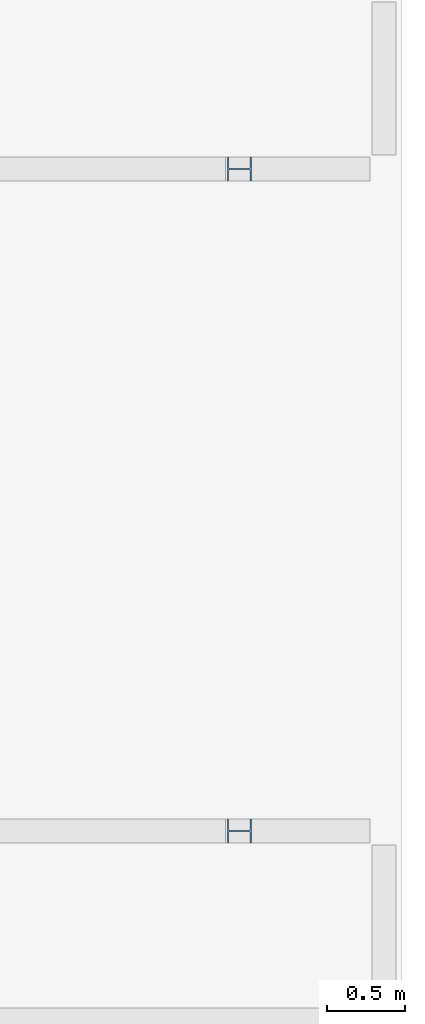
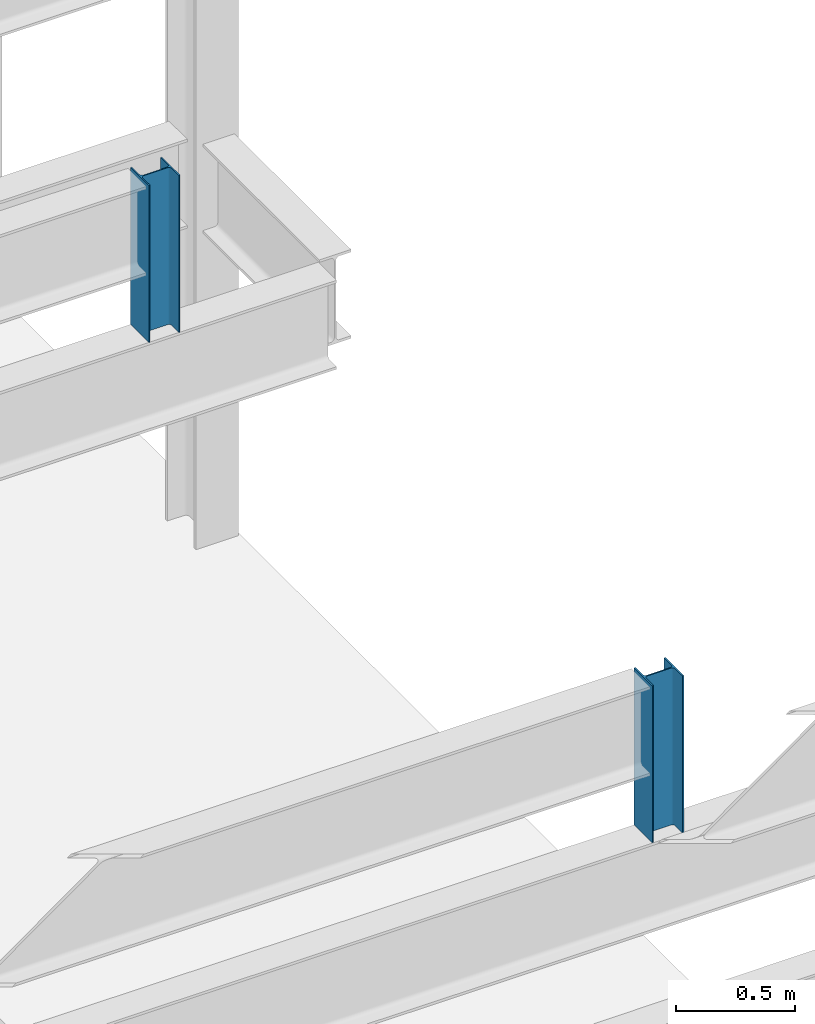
# One storey, part 7 of 119: 2 columns.
"""IFC2X3 building model written with IfcOpenShell, lengths in metres."""

from ifc_helpers import new_model, entity, si_unit, converted_unit, frame, frame_2d, origin, place, context, project, spatial, polyline, circle_curve, parameter, trimmed, segment, composite_curve, outline, extrude, source, transform, mapped, material, type_object, type_shapes, element, save


model = new_model("IFC2X3")

# Units and contexts
model_context = context("Model", 3, precision=1e-09, world=origin())
plan_context = context("Plan", 3, precision=1e-09, world=origin())
ifc_project = project(units=[si_unit("LENGTHUNIT", "METRE"), si_unit("AREAUNIT", "SQUARE_METRE"), si_unit("VOLUMEUNIT", "CUBIC_METRE"), converted_unit("PLANEANGLEUNIT", "DEGREE", entity("IfcRatioMeasure", 0.01745329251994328), si_unit("PLANEANGLEUNIT", "RADIAN"), dimensions=[0, 0, 0, 0, 0, 0, 0]), si_unit("TIMEUNIT", "SECOND")], contexts=[model_context, plan_context])

# Site, building, storey
site_placement = place(None, origin())
site = spatial("IfcSite", under=ifc_project, at=site_placement, Name="Default", CompositionType="ELEMENT")
building_placement = place(site_placement, origin())
building = spatial("IfcBuilding", under=site, at=building_placement, CompositionType="ELEMENT")
storey_placement = place(building_placement, frame((0.0, 0.0, 4.570000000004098)))
storey = spatial("IfcBuildingStorey", under=building, at=storey_placement, Name="Second Floor", CompositionType="ELEMENT", Elevation=4.570000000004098)

# Columns
ifc_material = material(Name="Metal - Steel - 345 MPa")
column_type_1 = type_object("IfcColumnType", Name="W150X22.5", PredefinedType="COLUMN")
shared_shape_1 = source(origin(), model_context, "Body", "SweptSolid", [
    extrude(outline(composite_curve([segment(polyline([(-0.07599999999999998, -0.07599999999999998), (0.07599999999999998, -0.07599999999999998)]), True, "CONTINUOUS"), segment(polyline([(0.07599999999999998, -0.07599999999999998), (0.07599999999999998, -0.06939999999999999)]), True, "CONTINUOUS"), segment(polyline([(0.07599999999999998, -0.06939999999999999), (0.0143, -0.0694)]), True, "CONTINUOUS"), segment(trimmed(circle_curve(frame_2d((0.0143, -0.05799999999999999), x_axis=(-1.0, 0.0)), 0.0114), [parameter(4.071109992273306e-13)], [parameter(90.00000000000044)], True, "PARAMETER"), False, "CONTINUOUS"), segment(polyline([(0.002899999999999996, -0.05799999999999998), (0.002899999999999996, 0.05800000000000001)]), True, "CONTINUOUS"), segment(trimmed(circle_curve(frame_2d((0.0143, 0.058), x_axis=(-1.0, 0.0)), 0.0114), [parameter(270.0000000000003)], [parameter(4.071109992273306e-13)], True, "PARAMETER"), False, "CONTINUOUS"), segment(polyline([(0.01429999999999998, 0.06939999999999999), (0.07599999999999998, 0.06939999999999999)]), True, "CONTINUOUS"), segment(polyline([(0.07599999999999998, 0.06939999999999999), (0.07599999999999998, 0.07599999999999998)]), True, "CONTINUOUS"), segment(polyline([(0.07599999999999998, 0.07599999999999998), (-0.07599999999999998, 0.07599999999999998)]), True, "CONTINUOUS"), segment(polyline([(-0.07599999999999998, 0.07599999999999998), (-0.07599999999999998, 0.06939999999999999)]), True, "CONTINUOUS"), segment(polyline([(-0.07599999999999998, 0.06939999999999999), (-0.01429999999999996, 0.0694)]), True, "CONTINUOUS"), segment(trimmed(circle_curve(frame_2d((-0.0143, 0.058), x_axis=(-1.0, 0.0)), 0.0114), [parameter(180.0)], [parameter(270.0)], True, "PARAMETER"), False, "CONTINUOUS"), segment(polyline([(-0.002899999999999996, 0.05800000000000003), (-0.002899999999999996, -0.05799999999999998)]), True, "CONTINUOUS"), segment(trimmed(circle_curve(frame_2d((-0.0143, -0.05799999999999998), x_axis=(-1.0, 0.0)), 0.0114), [parameter(90.0000000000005)], [parameter(180.0000000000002)], True, "PARAMETER"), False, "CONTINUOUS"), segment(polyline([(-0.01430000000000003, -0.06939999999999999), (-0.07599999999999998, -0.06939999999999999)]), True, "CONTINUOUS"), segment(polyline([(-0.07599999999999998, -0.06939999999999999), (-0.07599999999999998, -0.07599999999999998)]), True, "CONTINUOUS")], self_intersect=False)), frame((0.0, 0.0, 6.641500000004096), z_axis=(0.0, 0.0, 1.0), x_axis=(-1.0, 0.0, 0.0)), (0.0, 0.0, 1.0), 0.8027999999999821),
])
type_shapes(column_type_1, [shared_shape_1])
column_1_placement = place(storey_placement, frame((-0.9209201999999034, 33.80399939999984, -4.570000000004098), z_axis=(0.0, 0.0, 1.0), x_axis=(0.0, 1.0, 0.0)))
element("IfcColumn", 1, at=column_1_placement, inside=storey, type_object=column_type_1, material=ifc_material, Name="M_W-Wide Flange-Column:W150X22.5:W150X22.5", ObjectType="W150X22.5", context=model_context, shape_type="MappedRepresentation", body=[
    mapped(shared_shape_1, transform((0.0, 0.0, 0.0), scale=1.0)),
])
column_type_2 = type_object("IfcColumnType", Name="W150X22.5", PredefinedType="COLUMN")
shared_shape_2 = source(origin(), model_context, "Body", "SweptSolid", [
    extrude(outline(composite_curve([segment(polyline([(-0.07599999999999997, -0.07599999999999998), (-0.06939999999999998, -0.07599999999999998)]), True, "CONTINUOUS"), segment(polyline([(-0.06939999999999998, -0.07599999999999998), (-0.06939999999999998, -0.01430000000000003)]), True, "CONTINUOUS"), segment(trimmed(circle_curve(frame_2d((-0.05799999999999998, -0.01430000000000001), x_axis=(0.0, -1.0)), 0.0114), [parameter(179.9999999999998)], [parameter(269.9999999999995)], True, "PARAMETER"), False, "CONTINUOUS"), segment(polyline([(-0.05799999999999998, -0.002899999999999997), (0.05800000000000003, -0.002899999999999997)]), True, "CONTINUOUS"), segment(trimmed(circle_curve(frame_2d((0.058, -0.01430000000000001), x_axis=(0.0, -1.0)), 0.0114), [parameter(89.99999999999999)], [parameter(180.0)], True, "PARAMETER"), False, "CONTINUOUS"), segment(polyline([(0.06940000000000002, -0.01429999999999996), (0.0694, -0.07599999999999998)]), True, "CONTINUOUS"), segment(polyline([(0.0694, -0.07599999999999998), (0.076, -0.07599999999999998)]), True, "CONTINUOUS"), segment(polyline([(0.076, -0.07599999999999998), (0.076, 0.07599999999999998)]), True, "CONTINUOUS"), segment(polyline([(0.076, 0.07599999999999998), (0.0694, 0.07599999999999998)]), True, "CONTINUOUS"), segment(polyline([(0.0694, 0.07599999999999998), (0.0694, 0.01429999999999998)]), True, "CONTINUOUS"), segment(trimmed(circle_curve(frame_2d((0.058, 0.0143), x_axis=(0.0, -1.0)), 0.0114), [parameter(359.9999999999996)], [parameter(89.99999999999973)], True, "PARAMETER"), False, "CONTINUOUS"), segment(polyline([(0.058, 0.002899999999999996), (-0.05799999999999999, 0.002899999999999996)]), True, "CONTINUOUS"), segment(trimmed(circle_curve(frame_2d((-0.05799999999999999, 0.0143), x_axis=(0.0, -1.0)), 0.0114), [parameter(269.9999999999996)], [parameter(359.9999999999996)], True, "PARAMETER"), False, "CONTINUOUS"), segment(polyline([(-0.06939999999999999, 0.0143), (-0.06939999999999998, 0.07599999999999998)]), True, "CONTINUOUS"), segment(polyline([(-0.06939999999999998, 0.07599999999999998), (-0.07599999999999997, 0.07599999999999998)]), True, "CONTINUOUS"), segment(polyline([(-0.07599999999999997, 0.07599999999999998), (-0.07599999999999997, -0.07599999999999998)]), True, "CONTINUOUS")], self_intersect=False)), frame((0.0, 0.0, 6.641500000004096), z_axis=(0.0, 0.0, 1.0), x_axis=(0.0, 1.0, 0.0)), (0.0, 0.0, 1.0), 0.8027999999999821),
])
type_shapes(column_type_2, [shared_shape_2])
column_2_placement = place(storey_placement, frame((-0.9209201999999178, 29.58600060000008, -4.570000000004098), z_axis=(0.0, 0.0, 1.0), x_axis=(0.0, -1.0, 0.0)))
element("IfcColumn", 2, at=column_2_placement, inside=storey, type_object=column_type_2, material=ifc_material, Name="M_W-Wide Flange-Column:W150X22.5:W150X22.5", ObjectType="W150X22.5", context=model_context, shape_type="MappedRepresentation", body=[
    mapped(shared_shape_2, transform((0.0, 0.0, 0.0), scale=1.0)),
])

save(model, "model.ifc")
